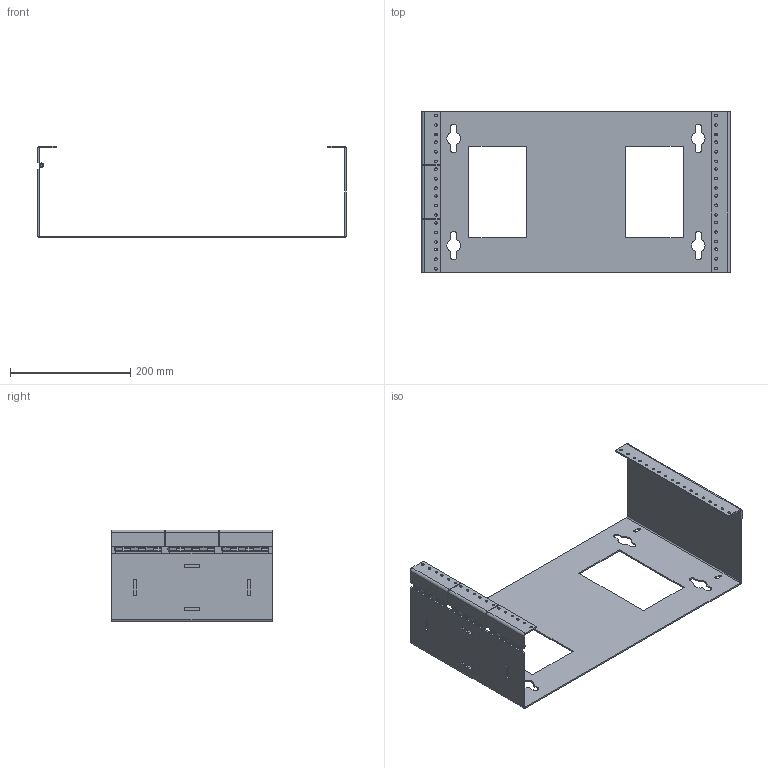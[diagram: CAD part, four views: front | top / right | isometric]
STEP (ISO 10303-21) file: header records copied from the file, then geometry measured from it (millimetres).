
FILE_DESCRIPTION (( 'STEP AP203' ), '1' );
FILE_NAME ('11004.step', '2013-07-10T10:33:49', ( '' ), ( '' ), 'SwSTEP 2.0', 'SolidWorks 2010', '' );
FILE_SCHEMA (( 'CONFIG_CONTROL_DESIGN' ));
Length unit declared in the file: millimetre
Products named in the file (6): 11004; body_swing_panel_6u; hinge_assembly; hinge_pin; hinge_blade; bracket_swing_panel
Assembly tree (10 placements, depth 3):
  11004
    body_swing_panel_6u
    hinge_assembly  x3
      hinge_blade
      hinge_pin
    bracket_swing_panel  x3
Bounding box: 512.93 x 266.7 x 152.4 mm (x, y, z)
Volume: 499055.7 mm3; surface area: 428975.5 mm2
Topology: 13 solids, 13 shells, 437 faces, 1146 edges, 738 vertices
Faces by surface type: plane 219, cylinder 212, torus 6
Entity records: 7603 total; most frequent: DIRECTION 1235, CARTESIAN_POINT 1161, ORIENTED_EDGE 1138, EDGE_CURVE 569, AXIS2_PLACEMENT_3D 441, VERTEX_POINT 367, LINE 353, VECTOR 353
